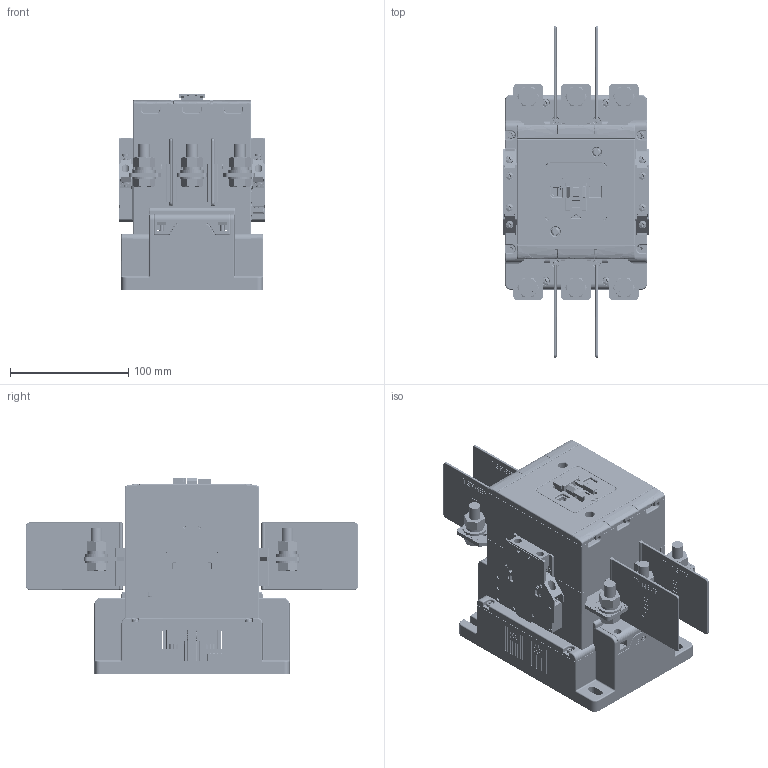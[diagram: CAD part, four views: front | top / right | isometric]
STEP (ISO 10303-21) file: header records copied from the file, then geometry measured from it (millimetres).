
FILE_DESCRIPTION (( 'STEP AP214' ), '1' );
FILE_NAME ('TGC1-120~225A.STEP', '2025-12-22T08:45:17', ( '' ), ( '' ), 'SwSTEP 2.0', 'SolidWorks 2024', '' );
FILE_SCHEMA (( 'AUTOMOTIVE_DESIGN' ));
Length unit declared in the file: millimetre
Products named in the file (112): GB_T93-10.stp; 8TZD_271_6006.stp; 8TZD_600_6009_AF33.stp; 8TZD_282_6044_AF0.stp; TGC1-120~225A.stp; 8TZD_600_6009_AF36.stp; 8TZD_600_6009_AF38.stp; 8TZD_600_6009_AF22.stp; 8TZD_600_6009_AF0.stp; 8TZD_174_6000.stp; 8TZD_600_6009_AF31.stp; 8TZD_600_6009_AF18.stp; 5TZD_558_6398.stp; 5TZD_612_6024_ASM.stp; 8TZD_600_6009_AF28.stp; 8TZD_600_6009_AF7.stp; 8TZD_969_6004_AF3.stp; 8TZD_311_6010.stp; 8TZD_596_6003.stp; 8TZD_024_6136.stp; 8TZD_732_6014.stp; 8TZD_900_1049.stp; 5TZD_104_6021_ASM.stp; 8TZD_600_6009_AF39.stp; 8TZD_600_6009_AF13.stp; 8TZD_287_6012.stp; 8TZD_600_6009_AF35.stp; Q_TZJ0303_3-M3_5X9_5.stp; 8TZD_600_6009_AF14.stp; 8TZD_104_6023.stp; 8TZD_600_6009_AF10.stp; 8TZD_600_6009_AF41.stp; 8TZD_282_6042_AF0.stp; 8TZD_600_6009_AF24.stp; Q_TZJ0304_1-M4X11.stp; 8TZD_287_6011.stp; 8TZD_600_6009_AF6.stp; GB_T97_1_10.stp; 8TZD_156_6036.stp; 8TZD_550_6135.stp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
Assembly tree (333 placements, depth 5):
  TGC1-120~225A
    TGC1-120~225A.stp
      5TZD_022_6022_ASM.stp
        5TZD_612_6025_ASM.stp
          8TZD_600_6009_AF41.stp  x26
          8TZD_600_6009_AF0.stp
          8TZD_600_6009_AF1.stp
          8TZD_600_6009_AF2.stp
          8TZD_600_6009_AF3.stp
          8TZD_600_6009_AF4.stp
          8TZD_600_6009_AF5.stp
          8TZD_600_6009_AF6.stp
          8TZD_600_6009_AF7.stp
          8TZD_600_6009_AF8.stp
          8TZD_600_6009_AF9.stp
          8TZD_600_6009_AF10.stp
          8TZD_600_6009_AF11.stp
          8TZD_600_6009_AF12.stp
          8TZD_600_6009_AF13.stp
          8TZD_600_6009_AF14.stp
          8TZD_600_6009_AF15.stp
          8TZD_600_6009_AF16.stp
          8TZD_600_6009_AF17.stp
          8TZD_600_6009_AF18.stp
          8TZD_600_6009_AF19.stp
          8TZD_600_6009_AF20.stp
          8TZD_600_6009_AF21.stp
          8TZD_600_6009_AF22.stp
          8TZD_600_6009_AF23.stp
          8TZD_600_6009_AF24.stp
          8TZD_600_6009_AF25.stp
          8TZD_600_6009_AF26.stp
          8TZD_600_6009_AF27.stp
          8TZD_600_6009_AF28.stp
          8TZD_600_6009_AF29.stp
          8TZD_600_6009_AF30.stp
          8TZD_600_6009_AF31.stp
          8TZD_600_6009_AF32.stp
          8TZD_600_6009_AF33.stp
          8TZD_600_6009_AF34.stp
          8TZD_600_6009_AF35.stp
          8TZD_600_6009_AF36.stp
          8TZD_600_6009_AF37.stp
          8TZD_600_6009_AF38.stp
          8TZD_600_6009_AF39.stp
          8TZD_600_6009_AF40.stp
          8TZD_548_6006.stp  x2
          8TZD_206_6087.stp  x2
          8TZD_969_6004_AF0.stp
          8TZD_969_6004_AF1.stp
          8TZD_969_6004_AF2.stp
          8TZD_969_6005_AF0.stp
          8TZD_969_6005_AF1.stp
          8TZD_969_6005_AF2.stp
        5TZD_520_6020_ASM.stp
          8TZD_732_6014.stp
          8TZD_516_6039.stp  x2
          Q_TZJ0303_3-M3_5X9_5.stp  x4
          8TZD_520_6039.stp
          8TZD_315_6246_5.stp
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Bounding box: 124.4 x 281 x 166.2 mm (x, y, z)
Volume: 1101942.3 mm3; surface area: 1349608.7 mm2
Topology: 297 solids, 431 shells, 41263 faces, 108307 edges, 71064 vertices
Faces by surface type: plane 31751, cylinder 7082, bspline 1272, cone 460, torus 426, sphere 272
Entity records: 654601 total; most frequent: CARTESIAN_POINT 172541, ORIENTED_EDGE 101394, DIRECTION 93472, EDGE_CURVE 50723, LINE 41088, VECTOR 41088, VERTEX_POINT 33202, AXIS2_PLACEMENT_3D 26192
